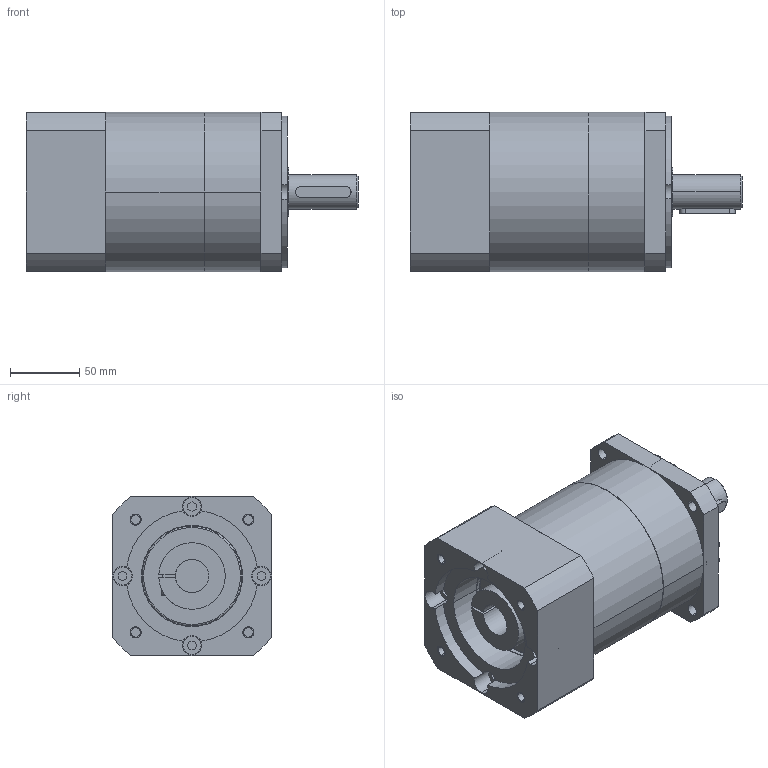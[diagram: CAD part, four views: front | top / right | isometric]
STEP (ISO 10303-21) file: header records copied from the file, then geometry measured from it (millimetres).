
FILE_DESCRIPTION((''),'2;1');
FILE_NAME('MB_PLE_MASTER','2020-02-13T',('agw'),(''),'CREO PARAMETRIC BY PTC INC, 2015290','CREO PARAMETRIC BY PTC INC, 2015290','');
FILE_SCHEMA(('AUTOMOTIVE_DESIGN { 1 0 10303 214 1 1 1 1 }'));
Length unit declared in the file: millimetre
Products named in the file (1): MB_PLE_MASTER
Bounding box: 239.5 x 115 x 115 mm (x, y, z)
Volume: 1990888 mm3; surface area: 139033.1 mm2
Topology: 1 solids, 6 shells, 248 faces, 602 edges, 393 vertices
Faces by surface type: plane 127, cylinder 109, cone 6, torus 6
Entity records: 7988 total; most frequent: DIRECTION 1344, CARTESIAN_POINT 1311, ORIENTED_EDGE 1180, EDGE_CURVE 600, AXIS2_PLACEMENT_3D 499, VERTEX_POINT 393, VECTOR 346, LINE 346
